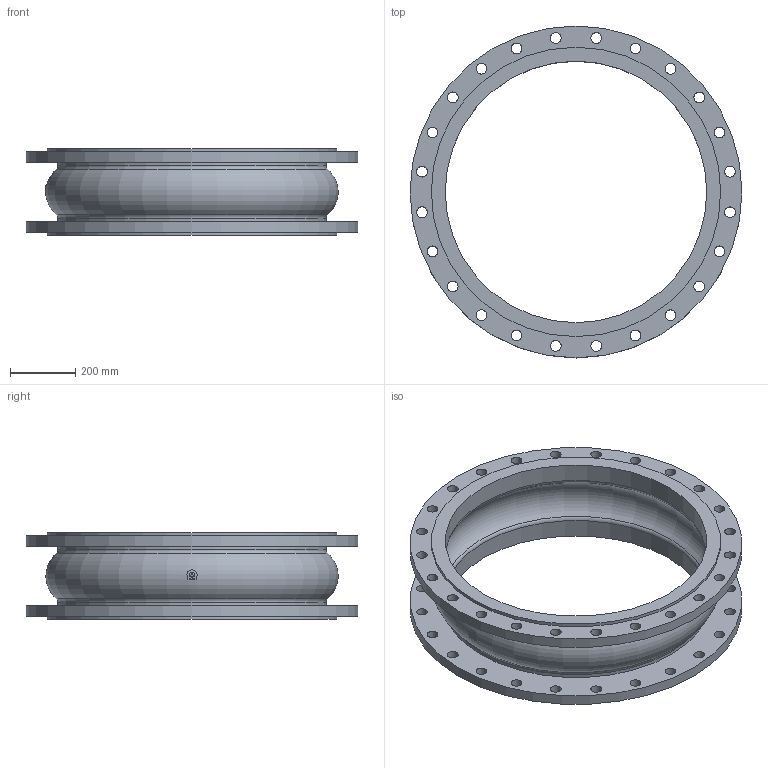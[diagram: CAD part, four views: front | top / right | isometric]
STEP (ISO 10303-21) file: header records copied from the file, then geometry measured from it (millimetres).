
FILE_DESCRIPTION(('STEP AP203'), '1');
FILE_NAME('Êîìïåíñàòîð KMS DN800 PN10_L265', '', ('UNSPECIFIED'), ('UNSPECIFIED'), 'ASCON STEP Converter 1.6', 'ASCON Math Kernel', '');
FILE_SCHEMA(('CONFIG_CONTROL_DESIGN'));
Length unit declared in the file: millimetre
Bounding box: 1015 x 1015 x 265 mm (x, y, z)
Volume: 26032405.6 mm3; surface area: 2809774 mm2
Topology: 1 solids, 1 shells, 85 faces, 220 edges, 144 vertices
Faces by surface type: cylinder 63, plane 13, torus 9
Full cylindrical faces by diameter (mm): 33 x48, 800 x2, 820 x2, 885 x2, 1015 x2
Entity records: 4183 total; most frequent: CARTESIAN_POINT 1362, DIRECTION 430, ORIENTED_EDGE 316, EDGE_LOOP 252, AXIS2_PLACEMENT_3D 208, EDGE_CURVE 158, VERTEX_POINT 144, FACE_BOUND 128
